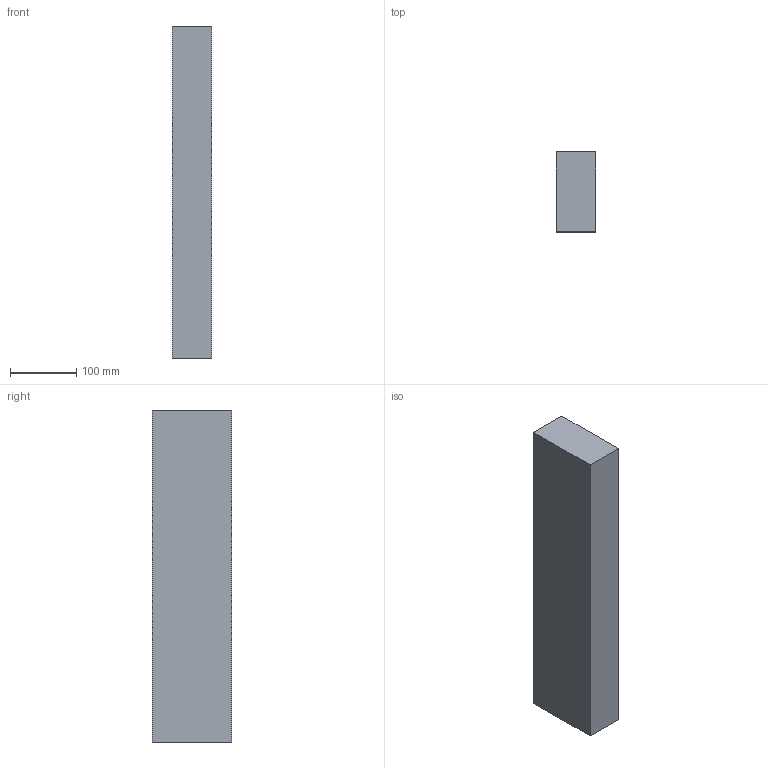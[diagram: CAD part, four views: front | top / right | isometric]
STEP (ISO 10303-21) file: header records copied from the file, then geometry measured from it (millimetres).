
FILE_DESCRIPTION(/* description */ (''),/* implementation_level */ '2;1');
FILE_NAME(/* name */ 'D:/dgooch/Documents/CADENG/PRO/DRBF50CM/0/DRBF50CM_0.step',/* time_stamp */ '2019-08-27T14:07:19-04:00',/* author */ (''),/* organization */ (''),/* preprocessor_version */ 'ST-DEVELOPER v18',/* originating_system */ 'Autodesk Translation Framework v8.6.0.1094',/* authorisation */ '');
FILE_SCHEMA (('AUTOMOTIVE_DESIGN { 1 0 10303 214 3 1 1 }'));
Length unit declared in the file: millimetre
Products named in the file (1): DRBF50CM
Bounding box: 60 x 120 x 499.8 mm (x, y, z)
Volume: 3197869.1 mm3; surface area: 202512.1 mm2
Topology: 1 solids, 1 shells, 34 faces, 100 edges, 67 vertices
Faces by surface type: plane 25, cylinder 8, cone 1
Full cylindrical faces by diameter (mm): 16 x1, 32 x1
Entity records: 1267 total; most frequent: CARTESIAN_POINT 327, ORIENTED_EDGE 200, DIRECTION 184, EDGE_CURVE 100, VERTEX_POINT 67, AXIS2_PLACEMENT_3D 62, LINE 60, VECTOR 60
